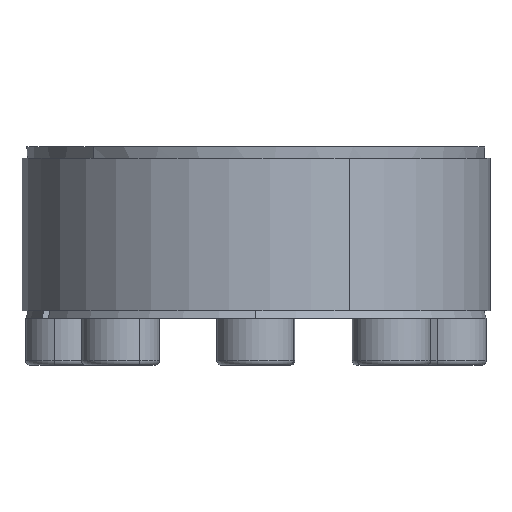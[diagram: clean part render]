
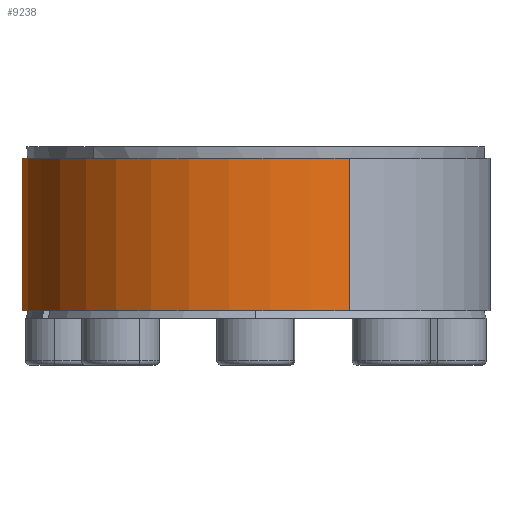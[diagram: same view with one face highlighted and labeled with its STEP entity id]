
A CAD part, left-side view. The second image highlights one B-rep face of the part: STEP entity #9238.
In plain terms, the highlighted cylindrical face has radius 29.985 mm (diameter 59.97 mm), a partial arc.
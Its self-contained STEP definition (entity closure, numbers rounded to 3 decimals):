
#45 = DIRECTION ( 'NONE',  ( 0., 0., -1. ) ) ;
#225 = LINE ( 'NONE', #11719, #10274 ) ;
#491 = CYLINDRICAL_SURFACE ( 'NONE', #7812, 29.985 ) ;
#1225 = AXIS2_PLACEMENT_3D ( 'NONE', #2732, #9524, #3701 ) ;
#1491 = CARTESIAN_POINT ( 'NONE',  ( 27.498, 11.956, 20.484 ) ) ;
#2358 = EDGE_CURVE ( 'NONE', #2652, #5015, #2497, .T. ) ;
#2497 = LINE ( 'NONE', #10132, #12255 ) ;
#2505 = DIRECTION ( 'NONE',  ( 0., 0., -1. ) ) ;
#2652 = VERTEX_POINT ( 'NONE', #2799 ) ;
#2712 = DIRECTION ( 'NONE',  ( 0., 0., 1. ) ) ;
#2732 = CARTESIAN_POINT ( 'NONE',  ( 0., 0., 0.984 ) ) ;
#2799 = CARTESIAN_POINT ( 'NONE',  ( -27.498, -11.956, 20.484 ) ) ;
#2953 = ORIENTED_EDGE ( 'NONE', *, *, #10620, .T. ) ;
#3541 = DIRECTION ( 'NONE',  ( 0.917, 0.399, 0. ) ) ;
#3701 = DIRECTION ( 'NONE',  ( -0.917, -0.399, 0. ) ) ;
#4755 = VERTEX_POINT ( 'NONE', #1491 ) ;
#4801 = CARTESIAN_POINT ( 'NONE',  ( -27.498, -11.956, 0.984 ) ) ;
#4871 = EDGE_CURVE ( 'NONE', #4755, #2652, #7721, .T. ) ;
#4953 = CIRCLE ( 'NONE', #1225, 29.985 ) ;
#5015 = VERTEX_POINT ( 'NONE', #4801 ) ;
#5275 = DIRECTION ( 'NONE',  ( 0., 0., -1. ) ) ;
#5311 = ORIENTED_EDGE ( 'NONE', *, *, #6229, .T. ) ;
#6229 = EDGE_CURVE ( 'NONE', #4755, #8849, #225, .T. ) ;
#7721 = CIRCLE ( 'NONE', #11527, 29.985 ) ;
#7812 = AXIS2_PLACEMENT_3D ( 'NONE', #10295, #2505, #3541 ) ;
#8548 = CARTESIAN_POINT ( 'NONE',  ( 0., 0., 20.484 ) ) ;
#8849 = VERTEX_POINT ( 'NONE', #10578 ) ;
#8984 = EDGE_LOOP ( 'NONE', ( #10688, #12272, #5311, #2953 ) ) ;
#9167 = FACE_OUTER_BOUND ( 'NONE', #8984, .T. ) ;
#9238 = ADVANCED_FACE ( 'NONE', ( #9167 ), #491, .T. ) ;
#9505 = DIRECTION ( 'NONE',  ( -0.917, -0.399, 0. ) ) ;
#9524 = DIRECTION ( 'NONE',  ( 0., 0., 1. ) ) ;
#10132 = CARTESIAN_POINT ( 'NONE',  ( -27.498, -11.956, 20.484 ) ) ;
#10274 = VECTOR ( 'NONE', #45, 1000. ) ;
#10295 = CARTESIAN_POINT ( 'NONE',  ( 0., 0., 20.484 ) ) ;
#10578 = CARTESIAN_POINT ( 'NONE',  ( 27.498, 11.956, 0.984 ) ) ;
#10620 = EDGE_CURVE ( 'NONE', #8849, #5015, #4953, .T. ) ;
#10688 = ORIENTED_EDGE ( 'NONE', *, *, #2358, .F. ) ;
#11527 = AXIS2_PLACEMENT_3D ( 'NONE', #8548, #2712, #9505 ) ;
#11719 = CARTESIAN_POINT ( 'NONE',  ( 27.498, 11.956, 20.484 ) ) ;
#12255 = VECTOR ( 'NONE', #5275, 1000. ) ;
#12272 = ORIENTED_EDGE ( 'NONE', *, *, #4871, .F. ) ;
